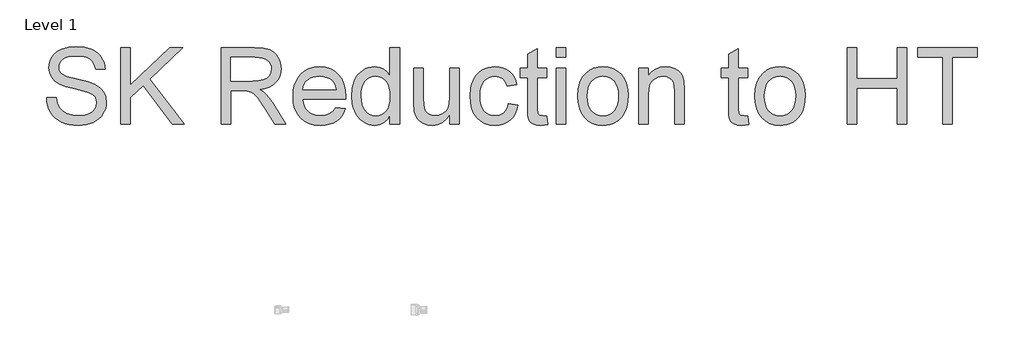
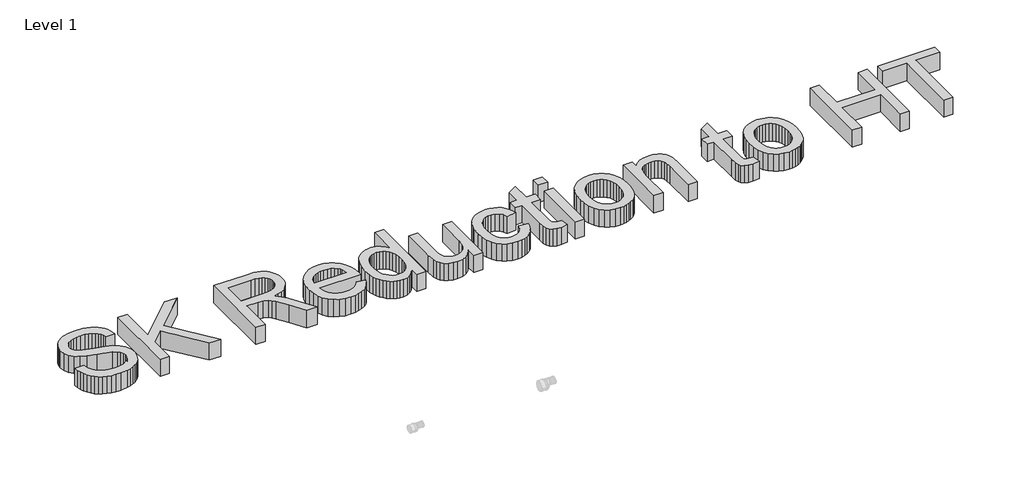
# One storey, part 4 of 29: 1 proxy.
"""IFC4 building model written with IfcOpenShell, lengths in millimetres."""

import ifcopenshell
import ifcopenshell.guid

model = None  # the IFC model being written
_history = None  # IfcOwnerHistory: only IFC2X3 demands one
_inside = {}  # id of a spatial element -> (the spatial element, [elements in it])
_under = {}  # id of a project, library or spatial element -> (it, [spatial elements below it])
_declared = {}  # id of a project -> (the project, [libraries it declares])
_typed = {}  # id of a type object -> (the type object, [elements of that type])
_made_of = {}  # id of a material, layer set ... -> (it, [elements and type objects made of it])


def new_model(schema):
    """Start an empty IFC model of exactly this schema.

    Asked for "IFC4X3", IfcOpenShell would pick the latest addendum, in which some entities
    have other attributes; the version numbers below select the first issue.
    IFC2X3 requires an IfcOwnerHistory on every rooted entity: one is made here for all.
    """
    global model, _history
    if schema == "IFC4X3":
        model = ifcopenshell.file(schema_version=(4, 3, 0, 0))
    else:
        model = ifcopenshell.file(schema=schema)
    _inside.clear()
    _under.clear()
    _declared.clear()
    _typed.clear()
    _made_of.clear()
    _history = None
    if model.schema == "IFC2X3":
        org = make("IfcOrganization", Name="unknown")
        user = make(
            "IfcPersonAndOrganization",
            ThePerson=make("IfcPerson", FamilyName="unknown"),
            TheOrganization=org,
        )
        app = make(
            "IfcApplication",
            ApplicationDeveloper=org,
            Version="unknown",
            ApplicationFullName="unknown",
            ApplicationIdentifier="unknown",
        )
        _history = make(
            "IfcOwnerHistory",
            OwningUser=user,
            OwningApplication=app,
            ChangeAction="ADDED",
            CreationDate=0,
        )
    return model


def make(cls, **values):
    """One entity of the class cls with the attributes given. An attribute that is None is left unset."""
    return model.create_entity(
        cls, **{name: value for name, value in values.items() if value is not None}
    )


def rooted(cls, **values):
    """An entity with a GlobalId (a new one), such as an element, a storey or a relation."""
    return make(cls, GlobalId=ifcopenshell.guid.new(), OwnerHistory=_history, **values)


def si_unit(unit_type, name, prefix=None):
    """IfcSIUnit, for example si_unit("LENGTHUNIT", "METRE", prefix="MILLI")."""
    return make("IfcSIUnit", UnitType=unit_type, Prefix=prefix, Name=name)


def assignment(units):
    """IfcUnitAssignment: the units of a project."""
    return None if units is None else make("IfcUnitAssignment", Units=units)


def point(xyz):
    """IfcCartesianPoint."""
    return None if xyz is None else make("IfcCartesianPoint", Coordinates=xyz)


def direction(xyz):
    """IfcDirection."""
    return None if xyz is None else make("IfcDirection", DirectionRatios=xyz)


def frame(location, z_axis=None, x_axis=None):
    """IfcAxis2Placement3D, a coordinate frame: its origin and axes. An axis left out is left unset."""
    return make(
        "IfcAxis2Placement3D",
        Location=point(location),
        Axis=direction(z_axis),
        RefDirection=direction(x_axis),
    )


def origin():
    """The frame at (0, 0, 0) with its axes left unset."""
    return frame((0.0, 0.0, 0.0))


def origin_with_axes():
    """The frame at (0, 0, 0) with the z axis (0, 0, 1) and the x axis (1, 0, 0) written out."""
    return frame((0.0, 0.0, 0.0), z_axis=(0.0, 0.0, 1.0), x_axis=(1.0, 0.0, 0.0))


def place(relative_to, where):
    """IfcLocalPlacement: puts the frame where relative to a parent placement (None: the world)."""
    return make(
        "IfcLocalPlacement", PlacementRelTo=relative_to, RelativePlacement=where
    )


def context(
    kind, dimensions, precision=None, world=None, true_north=None, identifier=None
):
    """IfcGeometricRepresentationContext, for example the 3D "Model" context."""
    return make(
        "IfcGeometricRepresentationContext",
        ContextIdentifier=identifier,
        ContextType=kind,
        CoordinateSpaceDimension=dimensions,
        Precision=precision,
        WorldCoordinateSystem=world,
        TrueNorth=true_north,
    )


def project(units=None, contexts=None):
    """IfcProject with its units and contexts."""
    return rooted(
        "IfcProject",
        Name="project",
        RepresentationContexts=contexts,
        UnitsInContext=assignment(units),
    )


def spatial(cls, under=None, at=None, **own):
    """A site, building, storey or space (cls), placed at a placement, below another one or the project."""
    s = rooted(cls, ObjectPlacement=at, **own)
    if under is not None:
        _under.setdefault(under.id(), (under, []))[1].append(s)
    return s


def polyline(points):
    """IfcPolyline through the points."""
    return make("IfcPolyline", Points=[point(p) for p in points])


def outline(outer, holes=None, kind="AREA"):
    """IfcArbitraryClosedProfileDef: a profile drawn as a closed curve; with holes, ...WithVoids."""
    if holes is None:
        return make("IfcArbitraryClosedProfileDef", ProfileType=kind, OuterCurve=outer)
    return make(
        "IfcArbitraryProfileDefWithVoids",
        ProfileType=kind,
        OuterCurve=outer,
        InnerCurves=holes,
    )


def extrude(swept, where, along, depth):
    """IfcExtrudedAreaSolid: the profile swept, set in the frame where, extruded along a direction by depth."""
    return make(
        "IfcExtrudedAreaSolid",
        SweptArea=swept,
        Position=where,
        ExtrudedDirection=direction(along),
        Depth=depth,
    )


def shape(context_of_items, identifier, shape_type, items):
    """IfcShapeRepresentation: the items that make up one representation, for example the "Body"."""
    return make(
        "IfcShapeRepresentation",
        ContextOfItems=context_of_items,
        RepresentationIdentifier=identifier,
        RepresentationType=shape_type,
        Items=items,
    )


def made_of(thing, what):
    """Note that an element or type object is made of a material, layer set ...; save() writes the relation."""
    if what is not None:
        _made_of.setdefault(what.id(), (what, []))[1].append(thing)
    return thing


def element(
    cls,
    number,
    at=None,
    inside=None,
    cuts=None,
    type_object=None,
    material=None,
    context=None,
    identifier="Body",
    shape_type=None,
    held_by="IfcProductDefinitionShape",
    body=None,
    shapes=None,
    **own,
):
    """One element of the class cls, such as IfcWall. Its Tag is "e" and its number.

    at: its placement. inside: the storey or other place that contains it. cuts: it is an
    opening in that element (IfcRelVoidsElement). A single representation is given by context,
    identifier, shape_type and body (its items); several are given by shapes. held_by: the class
    of the entity that holds the representations. save() writes the other relations.
    """
    e = rooted(cls, Tag="e%d" % number, ObjectPlacement=at, **own)
    if body is not None:
        shapes = [shape(context, identifier, shape_type, body)]
    if shapes is not None:
        e.Representation = make(held_by, Representations=shapes)
    if inside is not None:
        _inside.setdefault(inside.id(), (inside, []))[1].append(e)
    if cuts is not None:
        rooted(
            "IfcRelVoidsElement", RelatingBuildingElement=cuts, RelatedOpeningElement=e
        )
    if type_object is not None:
        _typed.setdefault(type_object.id(), (type_object, []))[1].append(e)
    return made_of(e, material)


def aggregate(whole, parts):
    """IfcRelAggregates: a whole, such as a stair, and the parts it consists of."""
    return rooted("IfcRelAggregates", RelatingObject=whole, RelatedObjects=parts)


def save(model, path):
    """Write the relations noted so far, then the file.

    IfcRelAggregates (storeys below a building ...), IfcRelContainedInSpatialStructure (elements
    in a storey), IfcRelDefinesByType, IfcRelAssociatesMaterial and IfcRelDeclares: one each for
    every whole, place, type object, material and project.
    """
    for whole, parts in _under.values():
        aggregate(whole, parts)
    for where, things in _inside.values():
        rooted(
            "IfcRelContainedInSpatialStructure",
            RelatedElements=things,
            RelatingStructure=where,
        )
    for kind, things in _typed.values():
        rooted("IfcRelDefinesByType", RelatedObjects=things, RelatingType=kind)
    for what, things in _made_of.values():
        rooted("IfcRelAssociatesMaterial", RelatedObjects=things, RelatingMaterial=what)
    for by, libraries in _declared.values():
        rooted("IfcRelDeclares", RelatingContext=by, RelatedDefinitions=libraries)
    model.write(path)


model = new_model("IFC4")

# Units and contexts
model_context = context("Model", 3, world=origin())
ifc_project = project(units=[si_unit("LENGTHUNIT", "METRE", prefix="MILLI")], contexts=[model_context])

# Site, building, storey
site = spatial("IfcSite", under=ifc_project)
building = spatial("IfcBuilding", under=site)
storey = spatial("IfcBuildingStorey", under=building, Name="Level 1", Elevation=0.0)

# Proxy
placement = place(None, origin())
element("IfcBuildingElementProxy", 1, Name="600mm Arial", ObjectType="600mm Arial", at=placement, inside=storey, context=model_context, shape_type="SweptSolid", body=[
    extrude(outline(polyline([(-4340.6598037, -594.6631076), (-4265.3175711, -594.6631076), (-4256.6723442, -636.4728964), (-4241.0373594, -670.0789166), (-4216.6467831, -696.7503613), (-4181.7347818, -717.7564232), (-4139.0604704, -731.3864511), (-4091.3829638, -735.9297938), (-4049.4076281, -732.4900971), (-4012.6562168, -722.1710072), (-3982.8761693, -705.8370466), (-3961.8149251, -684.3527381), (-3949.2885431, -659.6862503), (-3945.1130825, -633.8057519), (-3948.2400795, -608.5874412), (-3957.6210703, -586.7904329), (-3976.6773577, -568.1939981), (-4008.8302441, -552.5774074), (-4118.532655, -523.8090354), (-4190.5455556, -504.7711421), (-4236.6227755, -486.6529539), (-4274.1283449, -461.3058844), (-4300.707819, -430.5877378), (-4316.5451389, -395.1607017), (-4321.8242456, -355.6869636), (-4320.1917692, -333.2507604), (-4315.2943401, -311.5595182), (-4307.1319584, -290.6132371), (-4295.7046239, -270.4119171), (-4281.1410954, -251.778694), (-4263.5701316, -235.5367039), (-4242.9917325, -221.6859468), (-4219.4058981, -210.2264227), (-4166.3941026, -194.8305612), (-4107.7169244, -189.6986073), (-4044.1469156, -195.0696845), (-3988.5231579, -211.1829159), (-3964.1877639, -223.185066), (-3942.8322141, -237.7072077), (-3924.4565085, -254.7493411), (-3909.060647, -274.3114662), (-3896.7641913, -295.8233659), (-3887.686703, -318.7148231), (-3881.8281823, -342.9858377), (-3879.188629, -368.6364098), (-3954.5308616, -368.6364098), (-3959.5708449, -344.5953214), (-3968.3632246, -323.68123), (-3980.9080006, -305.8941355), (-3997.205173, -291.234038), (-4017.5582444, -279.7745139), (-4042.2707174, -271.5891395), (-4071.3425921, -266.6779148), (-4104.7738684, -265.04084), (-4139.2720025, -266.6595207), (-4168.7485474, -271.5155631), (-4193.203503, -279.608967), (-4212.6368694, -290.9397324), (-4227.4441197, -304.5605633), (-4238.0207271, -319.5241634), (-4244.3666915, -335.8305329), (-4246.4820129, -353.4796716), (-4244.9828938, -368.6640009), (-4240.4855364, -382.4319846), (-4232.9899408, -394.7836226), (-4222.4961069, -405.7189149), (-4205.9782053, -416.0747931), (-4179.9689482, -426.5410358), (-4099.4763677, -447.8046152), (-4016.4086132, -468.0013367), (-3966.1559326, -485.6228843), (-3923.2057097, -512.9565165), (-3906.6004361, -529.0237626), (-3893.2417212, -546.6912955), (-3882.973215, -565.8671445), (-3875.6385677, -586.4593391), (-3869.7708499, -631.8927655), (-3871.4585085, -655.4602059), (-3876.5214845, -678.3378674), (-3884.9597778, -700.5257503), (-3896.7733883, -722.0238544), (-3911.7553826, -741.9998467), (-3929.6988269, -759.6213943), (-3950.6037213, -774.8884971), (-3974.4700657, -787.8011551), (-4000.6034829, -798.0696613), (-4028.3095957, -805.4043086), (-4088.4399078, -811.2720264), (-4126.9801453, -809.6901338), (-4162.2554301, -804.9444561), (-4194.2657623, -797.0349932), (-4223.0111417, -785.9617451), (-4248.6663123, -771.7063178), (-4271.4060181, -754.2503171), (-4291.2302591, -733.5937431), (-4308.1390353, -709.7365957), (-4321.7598662, -683.4514272), (-4331.7202712, -655.5107896), (-4338.0202504, -625.9146831), (-4340.6598037, -594.6631076)])), origin_with_axes(), (0.0, 0.0, 1.0), 150.0),
    extrude(outline(polyline([(-3756.757501, -801.8542473), (-3756.757501, -199.1163864), (-3681.4152684, -199.1163864), (-3681.4152684, -494.1577466), (-3372.3943924, -199.1163864), (-3267.032989, -199.1163864), (-3526.463372, -446.9216984), (-3257.6152099, -801.8542473), (-3349.7328615, -801.8542473), (-3579.8798377, -497.8365665), (-3681.4152684, -594.6631076), (-3681.4152684, -801.8542473), (-3756.757501, -801.8542473)])), origin_with_axes(), (0.0, 0.0, 1.0), 150.0),
    extrude(outline(polyline([(-2965.6640585, -801.8542473), (-2965.6640585, -199.1163864), (-2705.9393699, -199.1163864), (-2636.1337614, -203.1814825), (-2585.3476519, -215.3767706), (-2565.7487386, -225.0704612), (-2548.2283586, -237.8911487), (-2532.7865119, -253.8388332), (-2519.4231984, -272.9135147), (-2508.6396574, -294.089722), (-2500.9371281, -316.3419842), (-2496.3156106, -339.6703012), (-2494.7751047, -364.0746731), (-2497.3272861, -395.031943), (-2504.9838301, -423.4508271), (-2517.7447368, -449.3313254), (-2535.6100062, -472.673438), (-2558.8095645, -492.7322038), (-2587.573338, -508.7626618), (-2621.9013267, -520.7648119), (-2661.7935305, -528.7386541), (-2636.9614958, -544.9622501), (-2618.9720663, -560.9651169), (-2588.1067669, -597.5693754), (-2557.9036551, -638.5146415), (-2457.398294, -801.8542473), (-2544.9542089, -801.8542473), (-2623.3866502, -676.9215218), (-2680.0404775, -594.2216492), (-2701.1017217, -570.1069845), (-2719.8453094, -555.1525814), (-2755.6770157, -540.8051835), (-2799.3813967, -538.1564332), (-2890.3218259, -538.1564332), (-2890.3218259, -801.8542473), (-2965.6640585, -801.8542473)]), holes=[polyline([(-2890.3218259, -462.8142006), (-2721.6847193, -462.8142006), (-2673.2530547, -460.1470561), (-2635.6739089, -452.1456227), (-2607.3837834, -438.2764715), (-2586.8191799, -418.0061736), (-2574.292798, -393.4868386), (-2570.1173373, -366.8705762), (-2572.1084986, -347.6027567), (-2578.0819825, -330.1191649), (-2588.037789, -314.4198008), (-2601.9759181, -300.5046643), (-2620.2182665, -289.1095195), (-2643.0867311, -280.9701303), (-2670.5813117, -276.0864969), (-2702.7020084, -274.458619), (-2890.3218259, -274.458619), (-2890.3218259, -462.8142006)])]), origin_with_axes(), (0.0, 0.0, 1.0), 150.0),
    extrude(outline(polyline([(-2062.440184, -670.0053402), (-1988.5694793, -679.4231193), (-1999.8956463, -709.0100288), (-2015.1857417, -735.0836652), (-2034.4397656, -757.6440285), (-2057.657718, -776.6911189), (-2084.6004757, -791.8202659), (-2115.0289152, -802.6267995), (-2148.9430366, -809.1107197), (-2186.34284, -811.2720264), (-2233.0914445, -807.5426227), (-2274.7448834, -796.3544115), (-2311.3031567, -777.7073929), (-2342.7662643, -751.6015668), (-2368.0673485, -718.7635002), (-2386.1395515, -679.91976), (-2396.9828733, -635.0703463), (-2400.5973139, -584.215259), (-2396.9460851, -531.6357248), (-2385.9923987, -485.2917905), (-2367.7362547, -445.1834559), (-2342.1776531, -411.3107212), (-2310.7973189, -384.4001533), (-2275.0759772, -365.178319), (-2235.0136279, -353.6452185), (-2190.6102711, -349.8008516), (-2147.6370555, -353.6360214), (-2108.7749213, -365.1415308), (-2074.0238683, -384.3173798), (-2043.3838966, -411.1635684), (-2018.3725195, -444.9627267), (-2000.5072501, -484.9974849), (-1989.7880885, -531.2678428), (-1986.2150346, -583.7738006), (-1986.656493, -604.0808867), (-2325.2550813, -604.0808867), (-2320.8910812, -634.1460428), (-2312.2136646, -660.4771966), (-2299.2228316, -683.0743481), (-2281.9185823, -701.9374974), (-2261.2574097, -716.8091271), (-2238.1958072, -727.4317197), (-2212.7337746, -733.8052753), (-2184.871312, -735.9297938), (-2144.7721745, -731.9934564), (-2111.0006073, -720.1844444), (-2083.5566105, -699.7669937), (-2062.440184, -670.0053402)]), holes=[polyline([(-2325.2550813, -528.7386541), (-2061.5572672, -528.7386541), (-2071.7475985, -488.9338222), (-2080.512387, -473.2804433), (-2091.7235908, -460.4597558), (-2112.2698002, -445.008712), (-2135.648701, -433.9722521), (-2161.8602932, -427.3503762), (-2190.9045767, -425.1430843), (-2217.3966789, -426.9043193), (-2241.6906861, -432.1880245), (-2263.7865985, -440.9941997), (-2283.6844159, -453.3228451), (-2300.3816599, -468.6037435), (-2312.8758522, -486.2666778), (-2321.1669927, -506.311648), (-2325.2550813, -528.7386541)])]), origin_with_axes(), (0.0, 0.0, 1.0), 150.0),
    extrude(outline(polyline([(-1637.7572087, -801.8542473), (-1637.7572087, -730.7794459), (-1660.299178, -765.9949498), (-1687.6052191, -791.1488813), (-1719.675332, -806.2412401), (-1756.5095168, -811.2720264), (-1781.3783397, -809.4510105), (-1805.217093, -803.9879629), (-1828.0257767, -794.8828835), (-1849.8043908, -782.1357724), (-1869.8723536, -766.1283071), (-1887.5490835, -747.2421651), (-1902.8345804, -725.4773466), (-1915.7288443, -700.8338514), (-1925.9651608, -673.7807292), (-1933.2768155, -644.7870295), (-1939.1261392, -580.9778974), (-1933.736668, -517.9597116), (-1917.5682543, -461.048367), (-1905.4465425, -435.6921005), (-1890.6392922, -413.481225), (-1873.1465034, -394.4157406), (-1852.9681759, -378.4956473), (-1830.8170813, -365.9416742), (-1807.4059908, -356.9745506), (-1782.7349045, -351.5942764), (-1756.8038224, -349.8008516), (-1719.9420465, -354.9328055), (-1687.3477017, -370.328667), (-1659.7197639, -393.928297), (-1637.7572087, -423.6715563), (-1637.7572087, -199.1163864), (-1562.4149761, -199.1163864), (-1562.4149761, -801.8542473), (-1637.7572087, -801.8542473)]), holes=[polyline([(-1863.7839066, -580.6835918), (-1861.6593881, -617.2188725), (-1855.2858325, -648.8337314), (-1844.6632399, -675.5281687), (-1829.7916102, -697.3021843), (-1812.0321069, -714.2017634), (-1792.7458933, -726.2728914), (-1771.9329694, -733.5155682), (-1749.5933353, -735.9297938), (-1727.147935, -733.6259328), (-1706.4591713, -726.7143498), (-1687.5270442, -715.1950448), (-1670.3515535, -699.0680179), (-1656.0915277, -678.2045102), (-1645.9057949, -652.4757632), (-1639.7943553, -621.8817768), (-1637.7572087, -586.4225509), (-1639.8311435, -547.5466211), (-1646.0529477, -514.2073153), (-1656.4226215, -486.4046335), (-1670.9401647, -464.1385757), (-1688.4927344, -447.0780482), (-1707.9674875, -434.8919571), (-1729.3644241, -427.5803025), (-1752.683544, -425.1430843), (-1775.4646366, -427.4837335), (-1796.2775605, -434.505681), (-1815.1223157, -446.208927), (-1831.9989022, -462.5934714), (-1845.9048416, -484.0179991), (-1855.8376555, -510.841195), (-1861.7973438, -543.0630593), (-1863.7839066, -580.6835918)])]), origin_with_axes(), (0.0, 0.0, 1.0), 150.0),
    extrude(outline(polyline([(-1166.8682549, -801.8542473), (-1166.8682549, -725.7762507), (-1194.1283108, -763.1806526), (-1225.8765269, -789.8980825), (-1262.1129035, -805.9285404), (-1302.8374403, -811.2720264), (-1339.5336694, -807.51963), (-1373.6915126, -796.262441), (-1402.34952, -779.3398692), (-1422.5462416, -758.5913247), (-1436.1394813, -733.391408), (-1444.9870433, -703.1147198), (-1449.4016272, -633.0699879), (-1449.4016272, -359.2186307), (-1374.0593946, -359.2186307), (-1374.0593946, -597.6061636), (-1372.9189604, -645.2836702), (-1369.4976579, -674.4199242), (-1358.5163803, -700.0429052), (-1339.6992163, -719.5222568), (-1314.2969645, -731.8279095), (-1283.5604238, -735.9297938), (-1251.0580495, -731.735939), (-1220.6526026, -719.1543748), (-1195.5814446, -699.3439294), (-1179.0819372, -673.463431), (-1169.9216755, -638.0180008), (-1166.8682549, -589.5127597), (-1166.8682549, -359.2186307), (-1091.5260223, -359.2186307), (-1091.5260223, -801.8542473), (-1166.8682549, -801.8542473)])), origin_with_axes(), (0.0, 0.0, 1.0), 150.0),
    extrude(outline(polyline([(-705.3970802, -641.752003), (-630.0548476, -651.1697821), (-638.249419, -686.7209784), (-651.0609095, -718.1794875), (-668.489319, -745.5453094), (-690.5346476, -768.8184442), (-716.2679931, -787.3918864), (-744.7604537, -800.6586308), (-776.0120291, -808.6186775), (-810.0227196, -811.2720264), (-852.2785653, -807.5702138), (-890.1658122, -796.4647761), (-923.6844605, -777.9557132), (-952.8345101, -752.0430252), (-976.4295416, -719.2141556), (-993.2831355, -679.9565482), (-1003.3952918, -634.2702029), (-1006.7660106, -582.1551198), (-1001.0086574, -515.1086262), (-993.8119659, -484.9377041), (-983.7365977, -457.001665), (-970.7135751, -431.8615292), (-954.6739201, -410.0783166), (-935.6176328, -391.6520271), (-913.544713, -376.5826609), (-889.4530409, -364.8656193), (-864.3404962, -356.496304), (-838.207079, -351.4747147), (-811.0527892, -349.8008516), (-777.6261114, -352.1001141), (-747.3908099, -358.9979015), (-720.3468847, -370.4942139), (-696.4943359, -386.5890512), (-676.2378335, -406.9145314), (-659.9820479, -431.1027726), (-647.7269789, -459.1537747), (-639.4726266, -491.0675378), (-714.8148592, -500.4853169), (-728.4816754, -467.6150606), (-749.7636488, -444.0522188), (-777.4835571, -429.8703679), (-810.464178, -425.1430843), (-836.0641663, -427.4699379), (-859.1533601, -434.4504987), (-879.7317592, -446.0847668), (-897.7993636, -462.3727422), (-912.5100449, -483.6915038), (-923.0176744, -510.4181307), (-929.3222521, -542.552623), (-931.423778, -580.0949806), (-929.3682374, -618.2029568), (-923.2016154, -650.7099296), (-912.9239122, -677.615899), (-898.5351276, -698.9208651), (-880.8262081, -715.1122714), (-860.5880998, -726.6775616), (-837.8208029, -733.6167357), (-812.5243172, -735.9297938), (-773.5104316, -730.1540465), (-756.6384436, -722.9343623), (-741.5230921, -712.8268045), (-728.5874414, -699.7210084), (-718.2545559, -683.5066095), (-710.5244355, -664.1836077), (-705.3970802, -641.752003)])), origin_with_axes(), (0.0, 0.0, 1.0), 150.0),
    extrude(outline(polyline([(-404.0281497, -739.0200025), (-394.6103706, -804.0615393), (-450.9698923, -811.2720264), (-487.1326924, -808.1450294), (-514.0984427, -798.7640386), (-533.15473, -784.3062762), (-545.5891415, -765.9489646), (-552.4317466, -734.4214776), (-554.7126149, -680.4531889), (-554.7126149, -434.5608633), (-611.2192894, -434.5608633), (-611.2192894, -359.2186307), (-554.7126149, -359.2186307), (-554.7126149, -251.6499353), (-479.3703823, -207.3569431), (-479.3703823, -359.2186307), (-404.0281497, -359.2186307), (-404.0281497, -434.5608633), (-479.3703823, -434.5608633), (-479.3703823, -678.2458969), (-475.3972568, -717.0942356), (-462.521387, -730.8530223), (-451.650474, -734.6606009), (-436.8432237, -735.9297938), (-404.0281497, -739.0200025)])), origin_with_axes(), (0.0, 0.0, 1.0), 150.0),
    extrude(outline(polyline([(-328.6859171, -801.8542473), (-328.6859171, -359.2186307), (-253.3436845, -359.2186307), (-253.3436845, -801.8542473), (-328.6859171, -801.8542473)])), origin_with_axes(), (0.0, 0.0, 1.0), 150.0),
    extrude(outline(polyline([(-328.6859171, -274.458619), (-328.6859171, -199.1163864), (-253.3436845, -199.1163864), (-253.3436845, -274.458619), (-328.6859171, -274.458619)])), origin_with_axes(), (0.0, 0.0, 1.0), 150.0),
    extrude(outline(polyline([(-159.1658937, -580.536439), (-155.0916006, -523.2112271), (-142.8687213, -473.8138722), (-122.4972559, -432.3443743), (-93.9772042, -398.8027334), (-65.2640145, -377.3644101), (-33.5709806, -362.0513221), (1.1018975, -352.8634693), (38.7546197, -349.8008516), (80.3206866, -353.5302554), (117.9044309, -364.7184666), (151.5058527, -383.3654852), (181.1249518, -409.4713113), (205.2993974, -442.153028), (222.5668586, -480.5277186), (232.9273353, -524.5953831), (236.3808275, -574.3560215), (234.8541172, -614.6850852), (230.2739864, -650.4708063), (222.640435, -681.7131847), (211.953463, -708.4122205), (198.3464277, -731.4738231), (181.9526863, -751.8039019), (162.7722388, -769.4024568), (140.8050851, -784.269488), (116.906551, -796.0830985), (91.9319621, -804.5213918), (65.8813183, -809.5843677), (38.7546197, -811.2720264), (-3.4184525, -807.5564182), (-41.3516848, -796.4095938), (-75.045077, -777.831553), (-104.4986292, -751.822296), (-128.4155575, -718.823281), (-145.4990776, -679.2759665), (-155.7491897, -633.1803525), (-159.1658937, -580.536439)]), holes=[polyline([(-83.8236611, -580.3892862), (-81.6439603, -616.9337639), (-75.1048578, -648.576214), (-64.2063537, -675.3166366), (-48.948448, -697.1550315), (-30.3888013, -714.11899), (-9.5850745, -726.2361032), (13.4627325, -733.5063711), (38.7546197, -735.9297938), (63.9177481, -733.4925756), (86.8735846, -726.1809209), (107.6221292, -713.9948298), (126.1633817, -696.9343023), (141.4212875, -674.8797767), (152.3197916, -647.7116913), (158.858894, -615.4300463), (161.0385949, -578.0348415), (158.8450985, -542.649192), (152.2646093, -511.8344764), (141.2971273, -485.5906946), (125.9426525, -463.9178466), (107.3324221, -446.953888), (86.5976731, -434.8367748), (63.7384057, -427.5665069), (38.7546197, -425.1430843), (13.4627325, -427.5573099), (-9.5850745, -434.7999866), (-30.3888013, -446.8711146), (-48.948448, -463.7706938), (-64.2063537, -485.5447093), (-75.1048578, -512.2391466), (-81.6439603, -543.8540056), (-83.8236611, -580.3892862)])]), origin_with_axes(), (0.0, 0.0, 1.0), 150.0),
    extrude(outline(polyline([(321.1408392, -801.8542473), (321.1408392, -359.2186307), (396.4830718, -359.2186307), (396.4830718, -421.0228059), (422.6578757, -389.8632009), (454.0933922, -367.6063402), (490.7896212, -354.2522238), (532.7465628, -349.8008516), (569.8842502, -353.3877011), (603.8949407, -364.1482495), (632.2586425, -380.7397274), (652.455364, -401.8193658), (666.1589683, -427.3319821), (675.0433185, -457.2223942), (679.0164441, -530.0630293), (679.0164441, -801.8542473), (603.6742115, -801.8542473), (603.6742115, -540.2165724), (601.5037077, -501.2578691), (594.9921964, -473.5563548), (582.9808492, -453.7091212), (564.310838, -438.3132597), (540.3801142, -428.4356281), (512.5866295, -425.1430843), (489.7089679, -426.9916913), (468.4591841, -432.5375124), (448.8372782, -441.7805475), (430.8432501, -454.7207967), (415.8106721, -472.8297879), (405.0731164, -497.5790491), (398.6305829, -528.9685803), (396.4830718, -566.9983816), (396.4830718, -801.8542473), (321.1408392, -801.8542473)])), origin_with_axes(), (0.0, 0.0, 1.0), 150.0),
    extrude(outline(polyline([(1178.1587351, -739.0200025), (1187.5765142, -804.0615393), (1131.2169926, -811.2720264), (1095.0541924, -808.1450294), (1068.0884422, -798.7640386), (1049.0321548, -784.3062762), (1036.5977434, -765.9489646), (1029.7551383, -734.4214776), (1027.4742699, -680.4531889), (1027.4742699, -434.5608633), (970.9675955, -434.5608633), (970.9675955, -359.2186307), (1027.4742699, -359.2186307), (1027.4742699, -251.6499353), (1102.8165025, -207.3569431), (1102.8165025, -359.2186307), (1178.1587351, -359.2186307), (1178.1587351, -434.5608633), (1102.8165025, -434.5608633), (1102.8165025, -678.2458969), (1106.7896281, -717.0942356), (1119.6654979, -730.8530223), (1130.5364109, -734.6606009), (1145.3436612, -735.9297938), (1178.1587351, -739.0200025)])), origin_with_axes(), (0.0, 0.0, 1.0), 150.0),
    extrude(outline(polyline([(1234.6654096, -580.536439), (1238.7397027, -523.2112271), (1250.962582, -473.8138722), (1271.3340475, -432.3443743), (1299.8540991, -398.8027334), (1328.5672889, -377.3644101), (1360.2603227, -362.0513221), (1394.9332008, -352.8634693), (1432.585923, -349.8008516), (1474.1519899, -353.5302554), (1511.7357343, -364.7184666), (1545.337156, -383.3654852), (1574.9562551, -409.4713113), (1599.1307007, -442.153028), (1616.3981619, -480.5277186), (1626.7586386, -524.5953831), (1630.2121308, -574.3560215), (1628.6854205, -614.6850852), (1624.1052897, -650.4708063), (1616.4717383, -681.7131847), (1605.7847663, -708.4122205), (1592.177731, -731.4738231), (1575.7839896, -751.8039019), (1556.6035421, -769.4024568), (1534.6363885, -784.269488), (1510.7378543, -796.0830985), (1485.7632654, -804.5213918), (1459.7126216, -809.5843677), (1432.585923, -811.2720264), (1390.4128508, -807.5564182), (1352.4796185, -796.4095938), (1318.7862263, -777.831553), (1289.3326741, -751.822296), (1265.4157459, -718.823281), (1248.3322257, -679.2759665), (1238.0821136, -633.1803525), (1234.6654096, -580.536439)]), holes=[polyline([(1310.0076422, -580.3892862), (1312.187343, -616.9337639), (1318.7264455, -648.576214), (1329.6249496, -675.3166366), (1344.8828553, -697.1550315), (1363.442502, -714.11899), (1384.2462288, -726.2361032), (1407.2940358, -733.5063711), (1432.585923, -735.9297938), (1457.7490515, -733.4925756), (1480.704888, -726.1809209), (1501.4534325, -713.9948298), (1519.9946851, -696.9343023), (1535.2525908, -674.8797767), (1546.1510949, -647.7116913), (1552.6901974, -615.4300463), (1554.8698982, -578.0348415), (1552.6764018, -542.649192), (1546.0959126, -511.8344764), (1535.1284306, -485.5906946), (1519.7739559, -463.9178466), (1501.1637254, -446.953888), (1480.4289765, -434.8367748), (1457.569709, -427.5665069), (1432.585923, -425.1430843), (1407.2940358, -427.5573099), (1384.2462288, -434.7999866), (1363.442502, -446.8711146), (1344.8828553, -463.7706938), (1329.6249496, -485.5447093), (1318.7264455, -512.2391466), (1312.187343, -543.8540056), (1310.0076422, -580.3892862)])]), origin_with_axes(), (0.0, 0.0, 1.0), 150.0),
    extrude(outline(polyline([(1959.8343985, -801.8542473), (1959.8343985, -199.1163864), (2035.1766311, -199.1163864), (2035.1766311, -443.9786424), (2355.3811197, -443.9786424), (2355.3811197, -199.1163864), (2430.7233523, -199.1163864), (2430.7233523, -801.8542473), (2355.3811197, -801.8542473), (2355.3811197, -519.320875), (2035.1766311, -519.320875), (2035.1766311, -801.8542473), (1959.8343985, -801.8542473)])), origin_with_axes(), (0.0, 0.0, 1.0), 150.0),
    extrude(outline(polyline([(2713.2567246, -801.8542473), (2713.2567246, -274.458619), (2515.483364, -274.458619), (2515.483364, -199.1163864), (2986.3723178, -199.1163864), (2986.3723178, -274.458619), (2788.5989572, -274.458619), (2788.5989572, -801.8542473), (2713.2567246, -801.8542473)])), origin_with_axes(), (0.0, 0.0, 1.0), 150.0),
])

save(model, "model.ifc")
